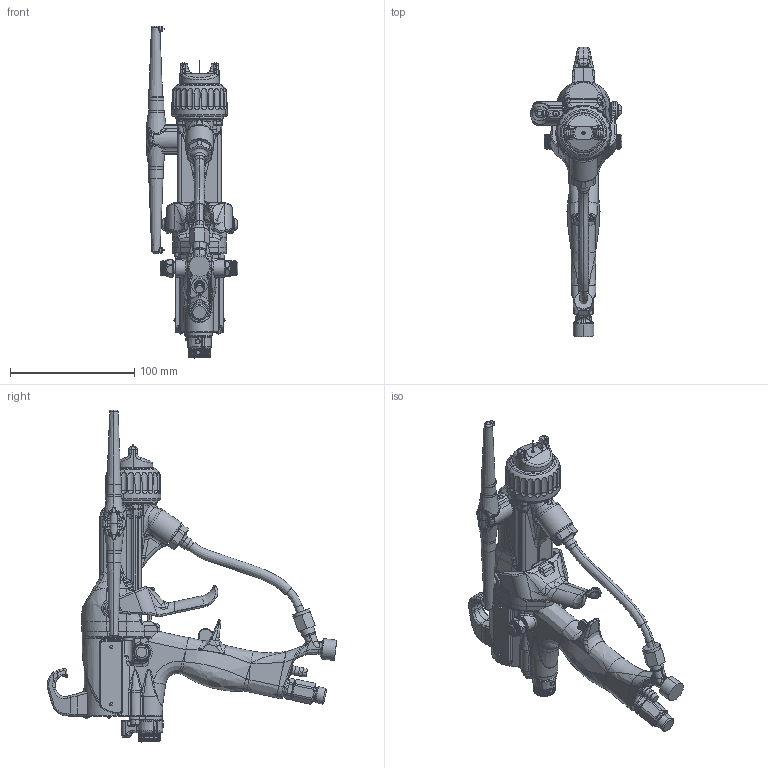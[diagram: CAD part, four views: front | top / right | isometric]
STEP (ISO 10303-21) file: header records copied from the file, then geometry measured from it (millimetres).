
FILE_DESCRIPTION((''),'2;1');
FILE_NAME('L40T28-EN-G_PRT','2020-03-05T07:52:36',('qusrh3'),(''),'CREO PARAMETRIC BY PTC INC, 2019030','CREO PARAMETRIC BY PTC INC, 2019030','');
FILE_SCHEMA(('CONFIG_CONTROL_DESIGN'));
Products named in the file (1): L40T28-EN-G_PRT
Bounding box: 73.96 x 233.22 x 267.38 mm (x, y, z)
Surface area: 99134.2 mm2 (no closed solid volume)
Topology: 0 solids, 84 shells, 2823 faces, 7999 edges, 5020 vertices
Faces by surface type: bspline 937, cylinder 730, plane 570, torus 273, cone 255, sphere 54, extrusion 4
Entity records: 140335 total; most frequent: CARTESIAN_POINT 77317, ORIENTED_EDGE 14375, DIRECTION 10745, EDGE_CURVE 7992, VERTEX_POINT 5020, AXIS2_PLACEMENT_3D 4343, B_SPLINE_CURVE_WITH_KNOTS 3480, EDGE_LOOP 2823
